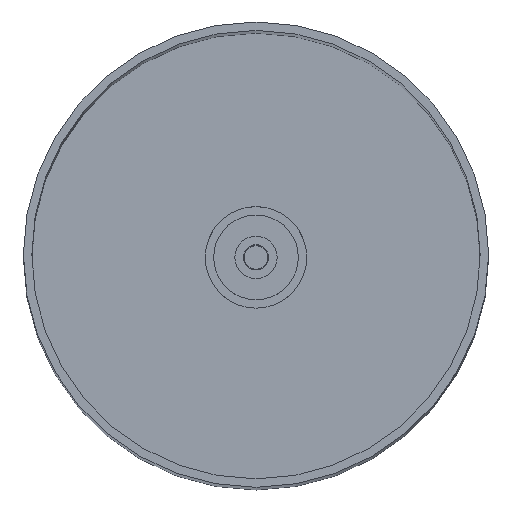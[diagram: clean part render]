
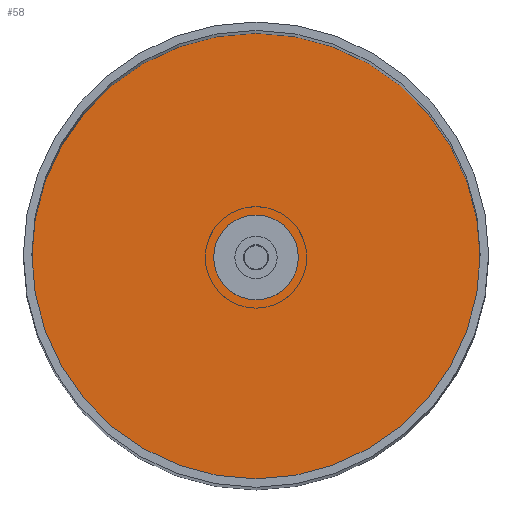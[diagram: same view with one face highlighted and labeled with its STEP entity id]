
A CAD part, top view. The second image highlights one B-rep face of the part: STEP entity #58.
In plain terms, the highlighted planar face has unit normal (0, 0, 1).
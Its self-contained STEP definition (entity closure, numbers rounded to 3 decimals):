
#36=FACE_BOUND('',#248,.T.);
#58=ADVANCED_FACE('',(#151,#36),#1554,.T.);
#151=FACE_OUTER_BOUND('',#247,.T.);
#247=EDGE_LOOP('',(#388,#389));
#248=EDGE_LOOP('',(#390,#391));
#388=ORIENTED_EDGE('',*,*,#849,.T.);
#389=ORIENTED_EDGE('',*,*,#827,.T.);
#390=ORIENTED_EDGE('',*,*,#851,.T.);
#391=ORIENTED_EDGE('',*,*,#823,.T.);
#823=EDGE_CURVE('',#1400,#1398,#1062,.T.);
#827=EDGE_CURVE('',#1404,#1402,#1064,.T.);
#849=EDGE_CURVE('',#1402,#1404,#1079,.T.);
#851=EDGE_CURVE('',#1398,#1400,#1081,.T.);
#1062=TRIMMED_CURVE($,#1161,(#2264),(#2265),.T.,.CARTESIAN.);
#1064=TRIMMED_CURVE($,#1163,(#2274),(#2275),.T.,.CARTESIAN.);
#1079=TRIMMED_CURVE($,#1178,(#2333),(#2334),.T.,.CARTESIAN.);
#1081=TRIMMED_CURVE($,#1180,(#2339),(#2340),.T.,.CARTESIAN.);
#1161=CIRCLE('',#1748,5.);
#1163=CIRCLE('',#1750,26.5);
#1178=CIRCLE('',#1765,26.5);
#1180=CIRCLE('',#1767,5.);
#1398=VERTEX_POINT('',#2231);
#1400=VERTEX_POINT('',#2233);
#1402=VERTEX_POINT('',#2235);
#1404=VERTEX_POINT('',#2237);
#1554=PLANE('',#1741);
#1741=AXIS2_PLACEMENT_3D('',#2222,#1932,$);
#1748=AXIS2_PLACEMENT_3D($,#2263,#1941,#1942);
#1750=AXIS2_PLACEMENT_3D($,#2273,#1945,#1946);
#1765=AXIS2_PLACEMENT_3D($,#2332,#1975,#1976);
#1767=AXIS2_PLACEMENT_3D($,#2338,#1979,#1980);
#1932=DIRECTION('',(0.,0.,1.));
#1941=DIRECTION('',(0.,0.,-1.));
#1942=DIRECTION('',(1.,0.,0.));
#1945=DIRECTION('',(0.,0.,1.));
#1946=DIRECTION('',(-1.,0.,0.));
#1975=DIRECTION('',(0.,0.,1.));
#1976=DIRECTION('',(1.,0.,0.));
#1979=DIRECTION('',(0.,0.,-1.));
#1980=DIRECTION('',(-1.,0.,0.));
#2222=CARTESIAN_POINT('',(688.804,-31.667,1227.75));
#2231=CARTESIAN_POINT('',(715.604,0.133,1227.75));
#2233=CARTESIAN_POINT('',(725.604,0.133,1227.75));
#2235=CARTESIAN_POINT('',(747.104,0.133,1227.75));
#2237=CARTESIAN_POINT('',(694.104,0.133,1227.75));
#2263=CARTESIAN_POINT('',(720.604,0.133,1227.75));
#2264=CARTESIAN_POINT('',(725.604,0.133,1227.75));
#2265=CARTESIAN_POINT('',(715.604,0.133,1227.75));
#2273=CARTESIAN_POINT('',(720.604,0.133,1227.75));
#2274=CARTESIAN_POINT('',(694.104,0.133,1227.75));
#2275=CARTESIAN_POINT('',(747.104,0.133,1227.75));
#2332=CARTESIAN_POINT('',(720.604,0.133,1227.75));
#2333=CARTESIAN_POINT('',(747.104,0.133,1227.75));
#2334=CARTESIAN_POINT('',(694.104,0.133,1227.75));
#2338=CARTESIAN_POINT('',(720.604,0.133,1227.75));
#2339=CARTESIAN_POINT('',(715.604,0.133,1227.75));
#2340=CARTESIAN_POINT('',(725.604,0.133,1227.75));
